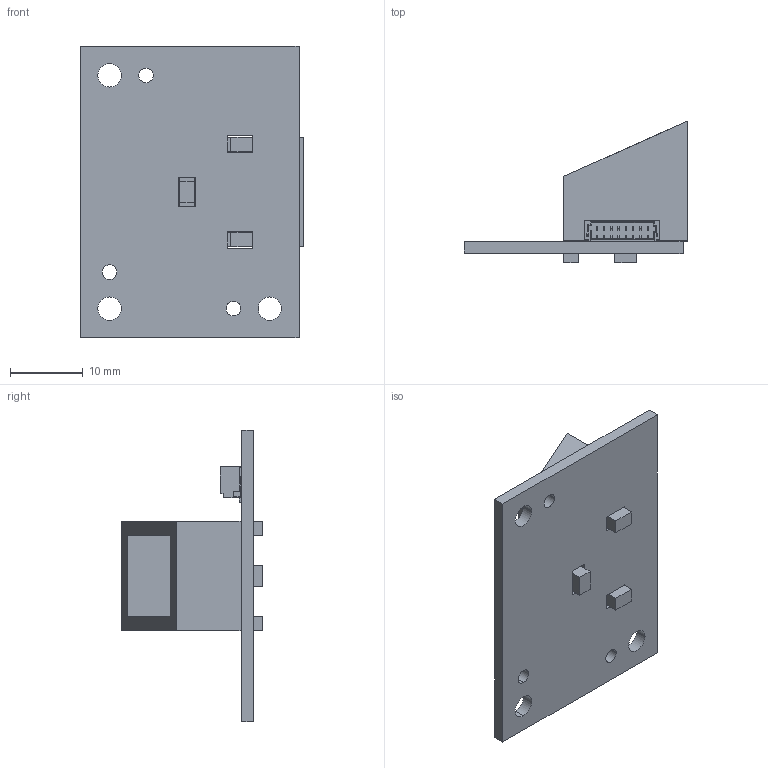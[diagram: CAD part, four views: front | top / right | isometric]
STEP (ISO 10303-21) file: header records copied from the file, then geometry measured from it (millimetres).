
FILE_DESCRIPTION((''),'2;1');
FILE_NAME('SIDE_LED_PCB_ASSY_ASM','2020-12-04T',('g6007893'),(''),'CREO PARAMETRIC BY PTC INC, 2014350','CREO PARAMETRIC BY PTC INC, 2014350','');
FILE_SCHEMA(('CONFIG_CONTROL_DESIGN'));
Length unit declared in the file: millimetre
Products named in the file (5): SIDE_LED_PCB; LED_EVERLIGHT_R6GHY5C_1_1_1; HS6208E-LH_3D; LIGHT_PIPE_SIDE_LED_16; SIDE_LED_PCB_ASSY_ASM
Assembly tree (5 placements, depth 2):
  SIDE_LED_PCB_ASSY_ASM
    SIDE_LED_PCB
    LED_EVERLIGHT_R6GHY5C_1_1_1  x2
    HS6208E-LH_3D
    LIGHT_PIPE_SIDE_LED_16
Bounding box: 30.63 x 19.45 x 40 mm (x, y, z)
Volume: 3362.1 mm3; surface area: 4670.7 mm2
Topology: 5 solids, 5 shells, 606 faces, 1706 edges, 1128 vertices
Faces by surface type: plane 442, cylinder 164
Entity records: 23710 total; most frequent: CARTESIAN_POINT 3324, ORIENTED_EDGE 3288, DIRECTION 3160, EDGE_CURVE 1644, PRESENTATION_STYLE_ASSIGNMENT 1585, STYLED_ITEM 1585, CURVE_STYLE 1582, VECTOR 1320
